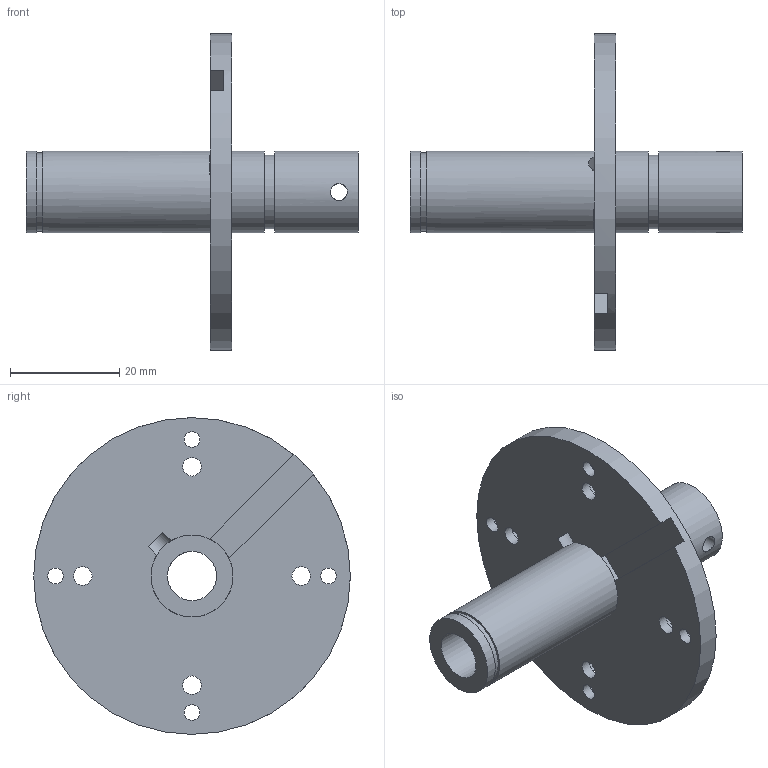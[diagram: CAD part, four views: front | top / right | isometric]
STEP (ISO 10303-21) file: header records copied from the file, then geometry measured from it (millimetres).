
FILE_DESCRIPTION(('Open CASCADE Model'),'2;1');
FILE_NAME('Open CASCADE Shape Model','2026-10-31T23:30:59',('Author'),( 'Open CASCADE'),'Open CASCADE STEP processor 7.9','Open CASCADE 7.9' ,'Unknown');
FILE_SCHEMA(('AUTOMOTIVE_DESIGN { 1 0 10303 214 1 1 1 1 }'));
Length unit declared in the file: millimetre
Products named in the file (1): Open CASCADE STEP translator 7.9 5
Bounding box: 60.8 x 58 x 58 mm (x, y, z)
Volume: 15640.3 mm3; surface area: 10880.1 mm2
Topology: 1 solids, 1 shells, 45 faces, 111 edges, 74 vertices
Faces by surface type: cylinder 27, plane 18
Full cylindrical faces by diameter (mm): 2.9 x4, 3.1 x2, 3.4 x4, 4.5 x1, 9 x1, 13.5 x1, 14.3 x1, 15 x4, 58 x1
Entity records: 4123 total; most frequent: CARTESIAN_POINT 1891, DIRECTION 400, ORIENTED_EDGE 222, PCURVE 222, DEFINITIONAL_REPRESENTATION 222, LINE 159, VECTOR 159, EDGE_CURVE 111
